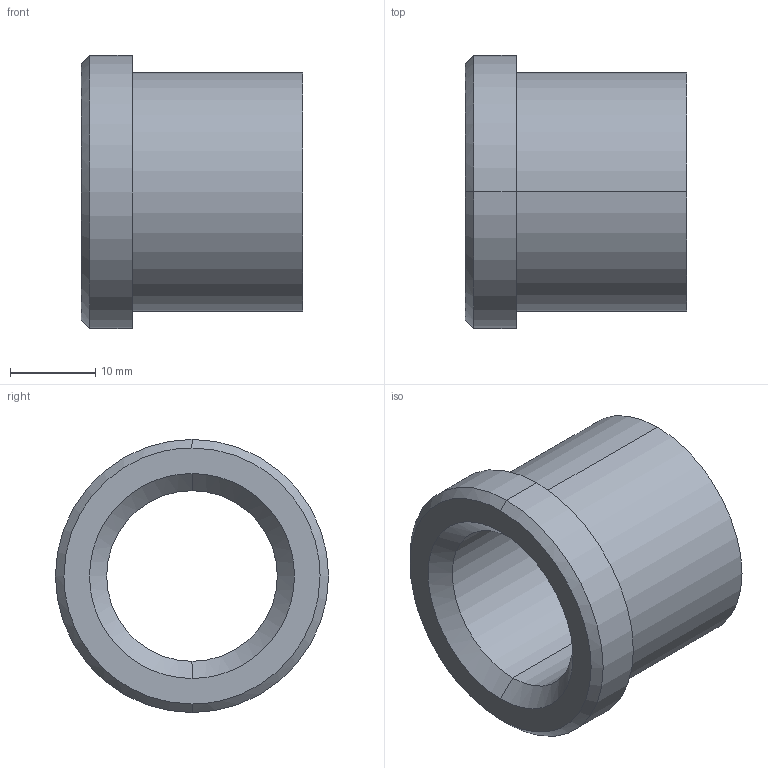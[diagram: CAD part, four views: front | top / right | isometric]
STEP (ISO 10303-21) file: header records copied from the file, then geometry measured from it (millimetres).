
FILE_DESCRIPTION(('CATIA V5 STEP Exchange'),'2;1');
FILE_NAME('C:\Users\Utente\Desktop\IO LAVORO\3D X SITO CF\X SITO\PLASTICA\353\353-20X26.stp','2021-05-11T14:51:17+00:00',('none'),('none'),'CATIA Version 5 Release 20 GA (IN-10)','CATIA V5 STEP AP203','none');
FILE_SCHEMA(('CONFIG_CONTROL_DESIGN'));
Length unit declared in the file: millimetre
Products named in the file (1): 353-20X26
Bounding box: 26 x 32 x 32 mm (x, y, z)
Volume: 8757.8 mm3; surface area: 4808.2 mm2
Topology: 1 solids, 1 shells, 15 faces, 48 edges, 36 vertices
Faces by surface type: cylinder 6, cone 4, plane 3, torus 2
Entity records: 680 total; most frequent: CARTESIAN_POINT 212, ORIENTED_EDGE 96, DIRECTION 70, EDGE_CURVE 48, AXIS2_PLACEMENT_3D 46, VERTEX_POINT 36, CIRCLE 30, EDGE_LOOP 18
